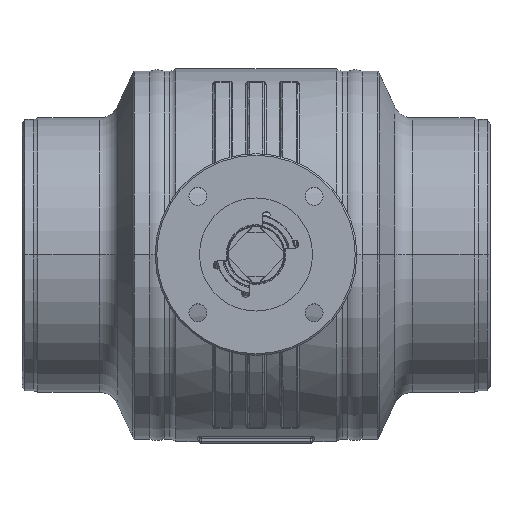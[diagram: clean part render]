
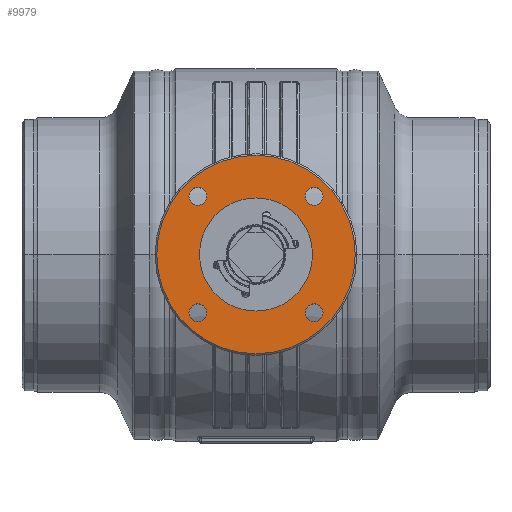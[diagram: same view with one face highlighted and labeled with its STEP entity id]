
A CAD part, top view. The second image highlights one B-rep face of the part: STEP entity #9979.
In plain terms, the highlighted planar face has unit normal (0, 0, 1).
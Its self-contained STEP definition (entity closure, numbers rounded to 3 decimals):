
#1085=CARTESIAN_POINT('',(0.,0.,227.));
#1086=DIRECTION('',(0.,0.,-1.));
#1087=DIRECTION('',(0.,-1.,0.));
#1088=AXIS2_PLACEMENT_3D('',#1085,#1086,#1087);
#1090=CARTESIAN_POINT('',(0.,0.,227.));
#1091=DIRECTION('',(0.,0.,-1.));
#1092=DIRECTION('',(0.,1.,0.));
#1093=AXIS2_PLACEMENT_3D('',#1090,#1091,#1092);
#1095=CARTESIAN_POINT('',(0.,0.,227.));
#1096=DIRECTION('',(0.,0.,-1.));
#1097=DIRECTION('',(0.,1.,0.));
#1098=AXIS2_PLACEMENT_3D('',#1095,#1096,#1097);
#1100=CARTESIAN_POINT('',(0.,0.,227.));
#1101=DIRECTION('',(0.,0.,1.));
#1102=DIRECTION('',(0.,1.,0.));
#1103=AXIS2_PLACEMENT_3D('',#1100,#1101,#1102);
#1105=CARTESIAN_POINT('',(36.062,-36.062,227.));
#1106=DIRECTION('',(0.,0.,-1.));
#1107=DIRECTION('',(0.,1.,0.));
#1108=AXIS2_PLACEMENT_3D('',#1105,#1106,#1107);
#1110=CARTESIAN_POINT('',(36.062,-36.062,227.));
#1111=DIRECTION('',(0.,0.,-1.));
#1112=DIRECTION('',(0.,-1.,0.));
#1113=AXIS2_PLACEMENT_3D('',#1110,#1111,#1112);
#1115=CARTESIAN_POINT('',(-36.062,-36.062,227.));
#1116=DIRECTION('',(0.,0.,-1.));
#1117=DIRECTION('',(0.,1.,0.));
#1118=AXIS2_PLACEMENT_3D('',#1115,#1116,#1117);
#1120=CARTESIAN_POINT('',(-36.062,-36.062,227.));
#1121=DIRECTION('',(0.,0.,-1.));
#1122=DIRECTION('',(0.,-1.,0.));
#1123=AXIS2_PLACEMENT_3D('',#1120,#1121,#1122);
#1125=CARTESIAN_POINT('',(-36.062,36.062,227.));
#1126=DIRECTION('',(0.,0.,-1.));
#1127=DIRECTION('',(0.,1.,0.));
#1128=AXIS2_PLACEMENT_3D('',#1125,#1126,#1127);
#1130=CARTESIAN_POINT('',(-36.062,36.062,227.));
#1131=DIRECTION('',(0.,0.,-1.));
#1132=DIRECTION('',(0.,-1.,0.));
#1133=AXIS2_PLACEMENT_3D('',#1130,#1131,#1132);
#1135=CARTESIAN_POINT('',(36.062,36.062,227.));
#1136=DIRECTION('',(0.,0.,-1.));
#1137=DIRECTION('',(0.,1.,0.));
#1138=AXIS2_PLACEMENT_3D('',#1135,#1136,#1137);
#1140=CARTESIAN_POINT('',(36.062,36.062,227.));
#1141=DIRECTION('',(0.,0.,-1.));
#1142=DIRECTION('',(0.,-1.,0.));
#1143=AXIS2_PLACEMENT_3D('',#1140,#1141,#1142);
#7950=CARTESIAN_POINT('',(0.,35.05,227.));
#7952=VERTEX_POINT('',#7950);
#7954=CARTESIAN_POINT('',(0.,-35.05,227.));
#7956=VERTEX_POINT('',#7954);
#8013=CARTESIAN_POINT('',(36.062,-30.562,227.));
#8014=CARTESIAN_POINT('',(36.062,-41.562,227.));
#8015=VERTEX_POINT('',#8013);
#8016=VERTEX_POINT('',#8014);
#8021=CARTESIAN_POINT('',(-36.062,-30.562,227.));
#8022=CARTESIAN_POINT('',(-36.062,-41.562,227.));
#8023=VERTEX_POINT('',#8021);
#8024=VERTEX_POINT('',#8022);
#8029=CARTESIAN_POINT('',(-36.062,41.562,227.));
#8030=CARTESIAN_POINT('',(-36.062,30.562,227.));
#8031=VERTEX_POINT('',#8029);
#8032=VERTEX_POINT('',#8030);
#8037=CARTESIAN_POINT('',(36.062,41.562,227.));
#8038=CARTESIAN_POINT('',(36.062,30.562,227.));
#8039=VERTEX_POINT('',#8037);
#8040=VERTEX_POINT('',#8038);
#8049=CARTESIAN_POINT('',(0.,-61.5,227.));
#8050=CARTESIAN_POINT('',(0.,61.5,227.));
#8051=VERTEX_POINT('',#8049);
#8052=VERTEX_POINT('',#8050);
#9940=CARTESIAN_POINT('',(0.,0.,227.));
#9941=DIRECTION('',(0.,0.,-1.));
#9942=DIRECTION('',(0.,1.,0.));
#9943=AXIS2_PLACEMENT_3D('',#9940,#9941,#9942);
#9944=PLANE('',#9943);
#9945=ORIENTED_EDGE('',*,*,#9907,.T.);
#9946=ORIENTED_EDGE('',*,*,#9922,.T.);
#9947=EDGE_LOOP('',(#9945,#9946));
#9948=FACE_OUTER_BOUND('',#9947,.F.);
#9950=ORIENTED_EDGE('',*,*,#9949,.F.);
#9952=ORIENTED_EDGE('',*,*,#9951,.T.);
#9953=EDGE_LOOP('',(#9950,#9952));
#9954=FACE_BOUND('',#9953,.F.);
#9956=ORIENTED_EDGE('',*,*,#9955,.F.);
#9958=ORIENTED_EDGE('',*,*,#9957,.F.);
#9959=EDGE_LOOP('',(#9956,#9958));
#9960=FACE_BOUND('',#9959,.F.);
#9962=ORIENTED_EDGE('',*,*,#9961,.F.);
#9964=ORIENTED_EDGE('',*,*,#9963,.F.);
#9965=EDGE_LOOP('',(#9962,#9964));
#9966=FACE_BOUND('',#9965,.F.);
#9968=ORIENTED_EDGE('',*,*,#9967,.F.);
#9970=ORIENTED_EDGE('',*,*,#9969,.F.);
#9971=EDGE_LOOP('',(#9968,#9970));
#9972=FACE_BOUND('',#9971,.F.);
#9974=ORIENTED_EDGE('',*,*,#9973,.F.);
#9976=ORIENTED_EDGE('',*,*,#9975,.F.);
#9977=EDGE_LOOP('',(#9974,#9976));
#9978=FACE_BOUND('',#9977,.F.);
#9979=ADVANCED_FACE('',(#9948,#9954,#9960,#9966,#9972,#9978),#9944,.F.);
#1089=CIRCLE('',#1088,61.5);
#1094=CIRCLE('',#1093,61.5);
#1099=CIRCLE('',#1098,35.05);
#1104=CIRCLE('',#1103,35.05);
#1109=CIRCLE('',#1108,5.5);
#1114=CIRCLE('',#1113,5.5);
#1119=CIRCLE('',#1118,5.5);
#1124=CIRCLE('',#1123,5.5);
#1129=CIRCLE('',#1128,5.5);
#1134=CIRCLE('',#1133,5.5);
#1139=CIRCLE('',#1138,5.5);
#1144=CIRCLE('',#1143,5.5);
#9907=EDGE_CURVE('',#8051,#8052,#1089,.T.);
#9922=EDGE_CURVE('',#8052,#8051,#1094,.T.);
#9949=EDGE_CURVE('',#7952,#7956,#1099,.T.);
#9951=EDGE_CURVE('',#7952,#7956,#1104,.T.);
#9955=EDGE_CURVE('',#8015,#8016,#1109,.T.);
#9957=EDGE_CURVE('',#8016,#8015,#1114,.T.);
#9961=EDGE_CURVE('',#8023,#8024,#1119,.T.);
#9963=EDGE_CURVE('',#8024,#8023,#1124,.T.);
#9967=EDGE_CURVE('',#8031,#8032,#1129,.T.);
#9969=EDGE_CURVE('',#8032,#8031,#1134,.T.);
#9973=EDGE_CURVE('',#8039,#8040,#1139,.T.);
#9975=EDGE_CURVE('',#8040,#8039,#1144,.T.);
